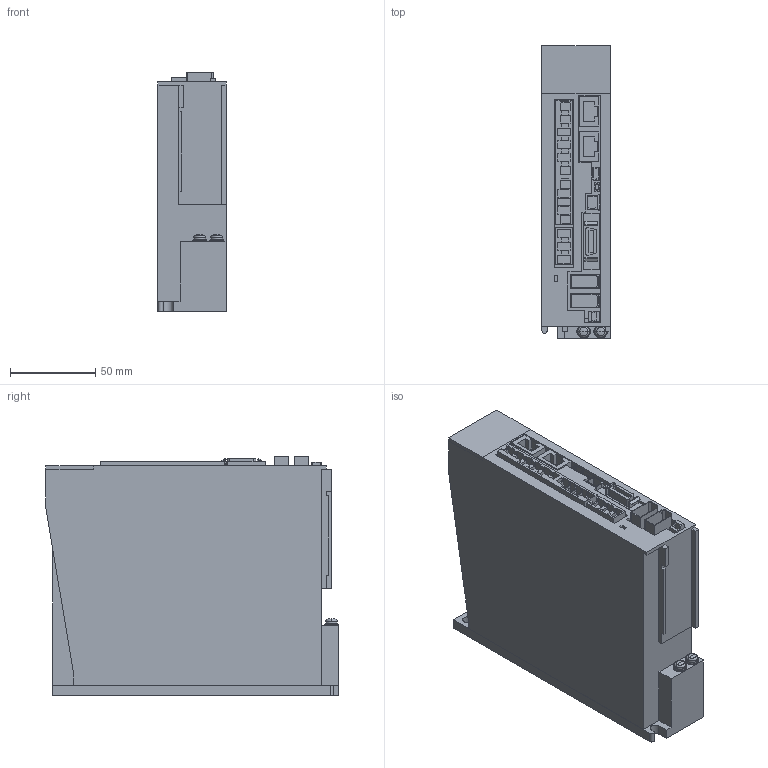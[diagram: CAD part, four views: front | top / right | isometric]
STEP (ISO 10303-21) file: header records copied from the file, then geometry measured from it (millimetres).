
FILE_DESCRIPTION((''),'2;1');
FILE_NAME('MR-J5-10GRJA_ASM','2019-08-22T',('BP68092'),(''),'CREO PARAMETRIC BY PTC INC, 2017480','CREO PARAMETRIC BY PTC INC, 2017480','');
FILE_SCHEMA(('AUTOMOTIVE_DESIGN { 1 0 10303 214 1 1 1 1 }'));
Length unit declared in the file: millimetre
Products named in the file (15): J5-10-40G-CHASSIS; J5-10-40GRJ-CASE; J5-LENZ; J5-CN1A; J5-CN1B; J5-CN2; J5-CN3; J5-CN4; J5-CN5; J5-CN6; J5-CN8; J5-CNP1-2; J5-CNP3; SW-PW-P-NA-M4X12-PE; MR-J5-10GRJA_ASM
Assembly tree (16 placements, depth 2):
  MR-J5-10GRJA_ASM
    J5-10-40G-CHASSIS
    J5-10-40GRJ-CASE
    J5-LENZ
    J5-CN1A
    J5-CN1B
    J5-CN2  x2
    J5-CN3
    J5-CN4
    J5-CN5
    J5-CN6
    J5-CN8
    J5-CNP1-2
    J5-CNP3
    SW-PW-P-NA-M4X12-PE  x2
Bounding box: 40 x 172 x 140.35 mm (x, y, z)
Volume: 156982.4 mm3; surface area: 152887.7 mm2
Topology: 16 solids, 16 shells, 533 faces, 1440 edges, 955 vertices
Faces by surface type: plane 459, cylinder 62, cone 4, torus 4, sphere 4
Entity records: 20062 total; most frequent: CARTESIAN_POINT 2836, ORIENTED_EDGE 2716, DIRECTION 2538, EDGE_CURVE 1358, VECTOR 1236, LINE 1236, VERTEX_POINT 904, AXIS2_PLACEMENT_3D 651
